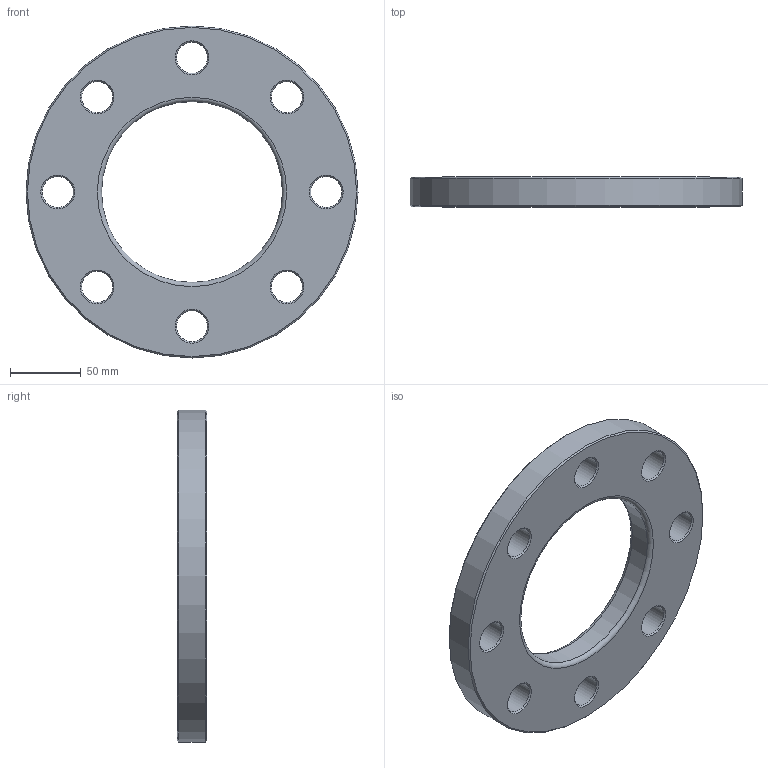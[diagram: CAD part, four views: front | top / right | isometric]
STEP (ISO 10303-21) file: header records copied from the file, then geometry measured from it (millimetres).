
FILE_DESCRIPTION(/* description */ ('Unknown'),/* implementation_level */ '2;1');
FILE_NAME(/* name */ 'FZ110L',/* time_stamp */ '2021-03-15T15:22:13+01:00',/* author */ ('Unknown'),/* organization */ ('Unknown'),/* preprocessor_version */ 'ST-DEVELOPER v16.7',/* originating_system */ 'Solid Edge',/* authorisation */ 'Unknown');
FILE_SCHEMA (('AUTOMOTIVE_DESIGN {1 0 10303 214 3 1 1}'));
Length unit declared in the file: millimetre
Products named in the file (1): FZ110L
Bounding box: 235 x 21 x 235 mm (x, y, z)
Volume: 573880.9 mm3; surface area: 87966.8 mm2
Topology: 1 solids, 1 shells, 32 faces, 94 edges, 64 vertices
Faces by surface type: cone 18, cylinder 10, plane 2, torus 2
Full cylindrical faces by diameter (mm): 22 x8, 128 x1, 235 x1
Entity records: 790 total; most frequent: DIRECTION 146, CARTESIAN_POINT 113, ORIENTED_EDGE 80, EDGE_LOOP 80, FACE_BOUND 80, AXIS2_PLACEMENT_3D 73, EDGE_CURVE 40, VERTEX_POINT 40
